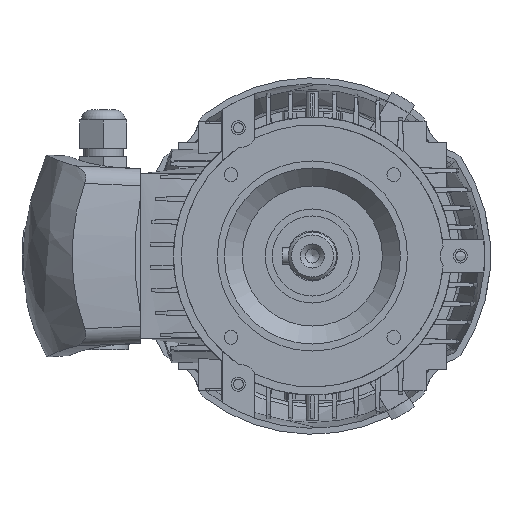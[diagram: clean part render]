
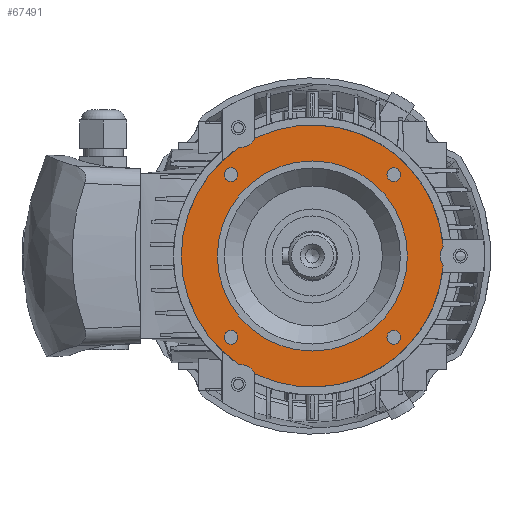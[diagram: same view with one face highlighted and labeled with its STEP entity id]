
A CAD part, left-side view. The second image highlights one B-rep face of the part: STEP entity #67491.
In plain terms, the highlighted planar face has unit normal (-1, 0, 0).
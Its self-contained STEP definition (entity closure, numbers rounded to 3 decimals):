
#64743=CARTESIAN_POINT('',(3.,-40.659,44.059));
#64744=VERTEX_POINT('',#64743);
#64745=CARTESIAN_POINT('',(3.,-40.659,40.659));
#64746=DIRECTION('',(-1.0,0.0,0.0));
#64747=DIRECTION('',(0.0,0.0,1.0));
#64748=AXIS2_PLACEMENT_3D('',#64745,#64746,#64747);
#64749=CIRCLE('',#64748,3.4);
#64750=EDGE_CURVE('',#64744,#64744,#64749,.T.);
#64771=CARTESIAN_POINT('',(3.,40.659,44.059));
#64772=VERTEX_POINT('',#64771);
#64773=CARTESIAN_POINT('',(3.,40.659,40.659));
#64774=DIRECTION('',(-1.0,0.0,0.0));
#64775=DIRECTION('',(0.0,0.0,1.0));
#64776=AXIS2_PLACEMENT_3D('',#64773,#64774,#64775);
#64777=CIRCLE('',#64776,3.4);
#64778=EDGE_CURVE('',#64772,#64772,#64777,.T.);
#64799=CARTESIAN_POINT('',(3.,40.659,-37.259));
#64800=VERTEX_POINT('',#64799);
#64801=CARTESIAN_POINT('',(3.,40.659,-40.659));
#64802=DIRECTION('',(-1.0,0.0,0.0));
#64803=DIRECTION('',(0.0,0.0,1.0));
#64804=AXIS2_PLACEMENT_3D('',#64801,#64802,#64803);
#64805=CIRCLE('',#64804,3.4);
#64806=EDGE_CURVE('',#64800,#64800,#64805,.T.);
#64827=CARTESIAN_POINT('',(3.,-40.659,-37.259));
#64828=VERTEX_POINT('',#64827);
#64829=CARTESIAN_POINT('',(3.,-40.659,-40.659));
#64830=DIRECTION('',(-1.0,0.0,0.0));
#64831=DIRECTION('',(0.0,0.0,1.0));
#64832=AXIS2_PLACEMENT_3D('',#64829,#64830,#64831);
#64833=CIRCLE('',#64832,3.4);
#64834=EDGE_CURVE('',#64828,#64828,#64833,.T.);
#66046=CARTESIAN_POINT('',(3.,0.0,47.5));
#66047=VERTEX_POINT('',#66046);
#66048=CARTESIAN_POINT('',(3.,0.0,0.0));
#66049=DIRECTION('',(-1.0,0.0,0.0));
#66050=DIRECTION('',(0.0,0.0,1.0));
#66051=AXIS2_PLACEMENT_3D('',#66048,#66049,#66050);
#66052=CIRCLE('',#66051,47.5);
#66053=EDGE_CURVE('',#66047,#66047,#66052,.T.);
#66425=CARTESIAN_POINT('',(3.,28.367,59.039));
#66426=VERTEX_POINT('',#66425);
#66433=CARTESIAN_POINT('',(3.,-65.313,4.953));
#66434=VERTEX_POINT('',#66433);
#66435=CARTESIAN_POINT('',(3.,0.0,0.0));
#66436=DIRECTION('',(-1.0,0.0,0.0));
#66437=DIRECTION('',(0.0,0.0,1.0));
#66438=AXIS2_PLACEMENT_3D('',#66435,#66436,#66437);
#66439=CIRCLE('',#66438,65.5);
#66440=EDGE_CURVE('',#66434,#66426,#66439,.T.);
#66661=CARTESIAN_POINT('',(3.,-65.313,-4.953));
#66662=VERTEX_POINT('',#66661);
#66669=CARTESIAN_POINT('',(3.,28.367,-59.039));
#66670=VERTEX_POINT('',#66669);
#66671=CARTESIAN_POINT('',(3.,0.0,0.0));
#66672=DIRECTION('',(-1.0,0.0,0.0));
#66673=DIRECTION('',(0.0,0.0,1.0));
#66674=AXIS2_PLACEMENT_3D('',#66671,#66672,#66673);
#66675=CIRCLE('',#66674,65.5);
#66676=EDGE_CURVE('',#66670,#66662,#66675,.T.);
#66815=CARTESIAN_POINT('',(3.,36.945,-54.086));
#66816=VERTEX_POINT('',#66815);
#66823=CARTESIAN_POINT('',(3.,36.945,54.086));
#66824=VERTEX_POINT('',#66823);
#66825=CARTESIAN_POINT('',(3.,0.0,0.0));
#66826=DIRECTION('',(-1.0,0.0,0.0));
#66827=DIRECTION('',(0.0,0.0,1.0));
#66828=AXIS2_PLACEMENT_3D('',#66825,#66826,#66827);
#66829=CIRCLE('',#66828,65.5);
#66830=EDGE_CURVE('',#66824,#66816,#66829,.T.);
#67445=CARTESIAN_POINT('',(3.,47.5,0.0));
#67446=DIRECTION('',(-1.0,0.0,0.0));
#67447=DIRECTION('',(0.0,0.0,1.0));
#67448=AXIS2_PLACEMENT_3D('',#67445,#67446,#67447);
#67449=PLANE('',#67448);
#67450=CARTESIAN_POINT('',(3.,37.,-64.086));
#67451=DIRECTION('',(-1.0,0.0,0.0));
#67452=DIRECTION('',(0.0,0.866,-0.5));
#67453=AXIS2_PLACEMENT_3D('',#67450,#67451,#67452);
#67454=CIRCLE('',#67453,10.);
#67455=EDGE_CURVE('',#66670,#66816,#67454,.T.);
#67456=ORIENTED_EDGE('',*,*,#67455,.F.);
#67457=ORIENTED_EDGE('',*,*,#66676,.T.);
#67458=CARTESIAN_POINT('',(3.,-74.,0.));
#67459=DIRECTION('',(-1.,0.0,0.0));
#67460=DIRECTION('',(0.0,-0.866,-0.5));
#67461=AXIS2_PLACEMENT_3D('',#67458,#67459,#67460);
#67462=CIRCLE('',#67461,10.);
#67463=EDGE_CURVE('',#66434,#66662,#67462,.T.);
#67464=ORIENTED_EDGE('',*,*,#67463,.F.);
#67465=ORIENTED_EDGE('',*,*,#66440,.T.);
#67466=CARTESIAN_POINT('',(3.,37.,64.086));
#67467=DIRECTION('',(-1.0,0.0,0.0));
#67468=DIRECTION('',(0.0,0.0,1.0));
#67469=AXIS2_PLACEMENT_3D('',#67466,#67467,#67468);
#67470=CIRCLE('',#67469,10.);
#67471=EDGE_CURVE('',#66824,#66426,#67470,.T.);
#67472=ORIENTED_EDGE('',*,*,#67471,.F.);
#67473=ORIENTED_EDGE('',*,*,#66830,.T.);
#67474=EDGE_LOOP('',(#67456,#67457,#67464,#67465,#67472,#67473));
#67475=FACE_OUTER_BOUND('',#67474,.T.);
#67476=ORIENTED_EDGE('',*,*,#64778,.F.);
#67477=EDGE_LOOP('',(#67476));
#67478=FACE_BOUND('',#67477,.T.);
#67479=ORIENTED_EDGE('',*,*,#64806,.F.);
#67480=EDGE_LOOP('',(#67479));
#67481=FACE_BOUND('',#67480,.T.);
#67482=ORIENTED_EDGE('',*,*,#64834,.F.);
#67483=EDGE_LOOP('',(#67482));
#67484=FACE_BOUND('',#67483,.T.);
#67485=ORIENTED_EDGE('',*,*,#64750,.F.);
#67486=EDGE_LOOP('',(#67485));
#67487=FACE_BOUND('',#67486,.T.);
#67488=ORIENTED_EDGE('',*,*,#66053,.F.);
#67489=EDGE_LOOP('',(#67488));
#67490=FACE_BOUND('',#67489,.T.);
#67491=ADVANCED_FACE('',(#67475,#67478,#67481,#67484,#67487,#67490),#67449,.T.);
